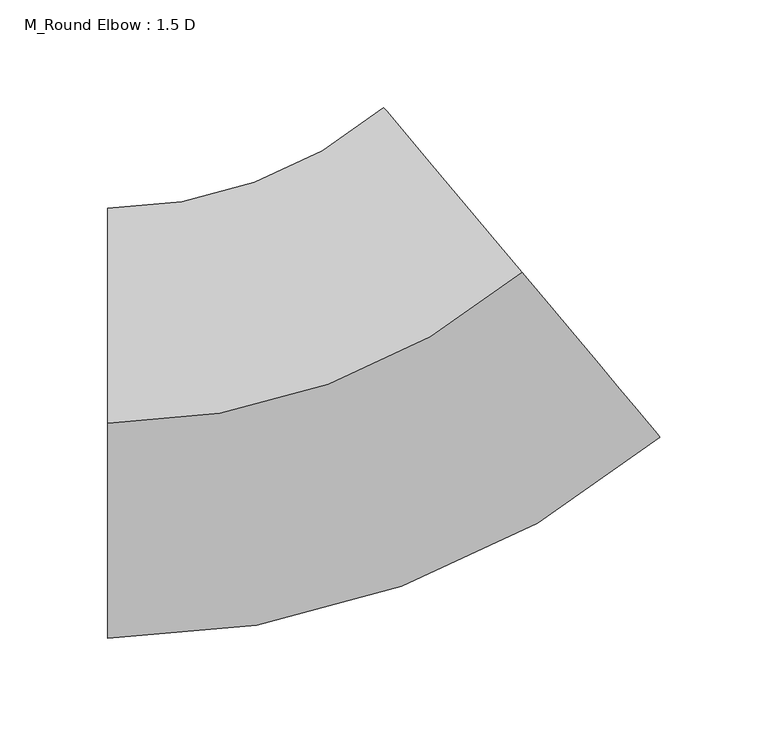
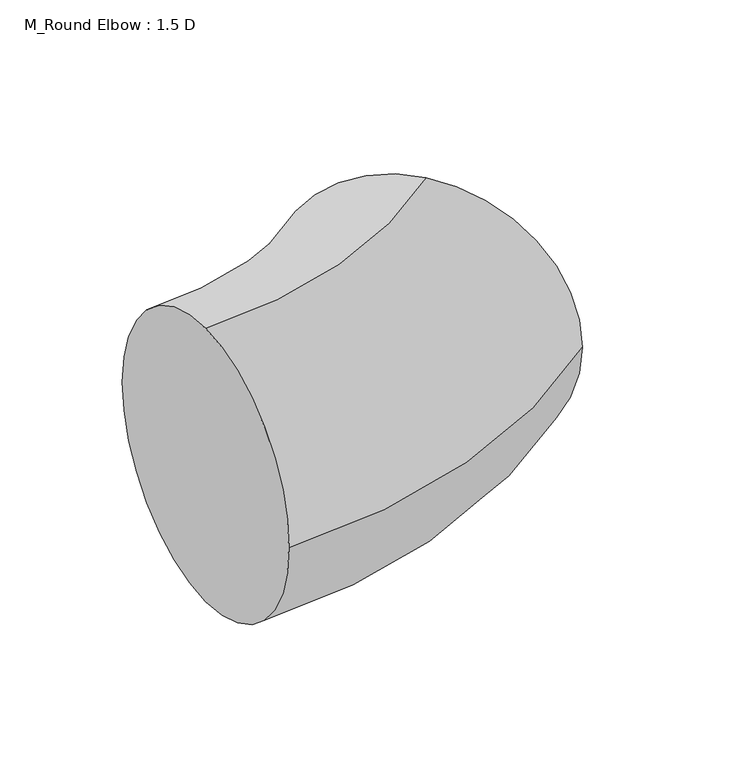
"""IFC4 building model written with IfcOpenShell, lengths in millimetres: duct fitting geometry, M_Round Elbow : 1.5 D."""

from ifc_helpers import new_model, si_unit, point, frame, origin, place, context, project, spatial, circle_curve, ellipse_curve, trimmed, source, transform, mapped, element, save
from ifc_brep_helpers import plane_surface, revolved_surface, advanced_brep


def m_round_elbow_1_5_d_e8828fc1(model_context):
    return source(origin(), model_context, "Body", "AdvancedBrep", [
        advanced_brep(
        [(-109.1910703, 0.0, 100.0), (-109.1910703, 100.0, 0.0), (-109.1910703, 0.0, -100.0), (-109.1910703, -100.0, 0.0), (83.6452126, 70.1866671, 100.0), (147.9239736, -6.4177772, 0.0), (83.6452126, 70.1866671, -100.0), (19.3664517, 146.7911114, 0.0)],
        [
            (0, 1, circle_curve(frame((-109.1910703, 0.0, 0.0), z_axis=(-1.0, 0.0, 0.0), x_axis=(0.0, 1.0, 0.0)), 100.0)),
            (1, 2, circle_curve(frame((-109.1910703, 0.0, 0.0), z_axis=(-1.0, 0.0, 0.0), x_axis=(0.0, 1.0, 0.0)), 100.0)),
            (2, 3, circle_curve(frame((-109.1910703, 0.0, 0.0), z_axis=(-1.0, 0.0, 0.0), x_axis=(0.0, 1.0, 0.0)), 100.0)),
            (3, 0, circle_curve(frame((-109.1910703, 0.0, 0.0), z_axis=(-1.0, 0.0, 0.0), x_axis=(0.0, 1.0, 0.0)), 100.0)),
            (4, 5, circle_curve(frame((83.6452126, 70.1866671, 0.0), z_axis=(0.766044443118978, 0.6427876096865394, 0.0), x_axis=(-0.6427876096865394, 0.766044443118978, 0.0)), 100.0)),
            (5, 6, circle_curve(frame((83.6452126, 70.1866671, 0.0), z_axis=(0.766044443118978, 0.6427876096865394, 0.0), x_axis=(-0.6427876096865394, 0.766044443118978, 0.0)), 100.0)),
            (6, 7, circle_curve(frame((83.6452126, 70.1866671, 0.0), z_axis=(0.766044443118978, 0.6427876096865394, 0.0), x_axis=(-0.6427876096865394, 0.766044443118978, 0.0)), 100.0)),
            (7, 4, circle_curve(frame((83.6452126, 70.1866671, 0.0), z_axis=(0.766044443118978, 0.6427876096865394, 0.0), x_axis=(-0.6427876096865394, 0.766044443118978, 0.0)), 100.0)),
            (7, 1, circle_curve(frame((-109.1910703, 300.0, 0.0), z_axis=(0.0, 0.0, -1.0), x_axis=(0.0, -1.0, 0.0)), 200.0)),
            (0, 4, circle_curve(frame((-109.1910703, 300.0, 100.0), z_axis=(0.0, 0.0, 1.0), x_axis=(0.0, -1.0, 0.0)), 300.0)),
            (6, 2, circle_curve(frame((-109.1910703, 300.0, -100.0), z_axis=(0.0, 0.0, -1.0), x_axis=(0.0, -1.0, 0.0)), 300.0)),
            (5, 3, circle_curve(frame((-109.1910703, 300.0, 0.0), z_axis=(0.0, 0.0, -1.0), x_axis=(0.0, -1.0, 0.0)), 400.0)),
        ],
        [
            plane_surface(frame((-109.1910703, 0.0, 0.0), z_axis=(-1.0, 0.0, 0.0), x_axis=(0.0, 0.0, 1.0))),
            plane_surface(frame((83.6452126, 70.1866671, 0.0), z_axis=(0.7660444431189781, 0.6427876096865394, 0.0), x_axis=(0.0, 0.0, 1.0))),
            revolved_surface(trimmed(ellipse_curve(frame((-109.1910703, 0.0, 0.0), z_axis=(-1.0, 0.0, 0.0), x_axis=(0.0, 1.0, 0.0)), 100.0, 100.0), [point((-109.1910703, 0.0, 100.0))], [point((-109.1910703, 100.0, 0.0))], True, "CARTESIAN"), (-109.1910703, 300.0, 0.0), (0.0, 0.0, 1.0)),
            revolved_surface(trimmed(ellipse_curve(frame((-109.1910703, 0.0, 0.0), z_axis=(-1.0, 0.0, 0.0), x_axis=(0.0, 1.0, 0.0)), 100.0, 100.0), [point((-109.1910703, 100.0, 0.0))], [point((-109.1910703, 0.0, -100.0))], True, "CARTESIAN"), (-109.1910703, 300.0, 0.0), (0.0, 0.0, 1.0)),
            revolved_surface(trimmed(ellipse_curve(frame((-109.1910703, 0.0, 0.0), z_axis=(-1.0, 0.0, 0.0), x_axis=(0.0, 1.0, 0.0)), 100.0, 100.0), [point((-109.1910703, 0.0, -100.0))], [point((-109.1910703, -100.0, 0.0))], True, "CARTESIAN"), (-109.1910703, 300.0, 0.0), (0.0, 0.0, 1.0)),
            revolved_surface(trimmed(ellipse_curve(frame((-109.1910703, 0.0, 0.0), z_axis=(-1.0, 0.0, 0.0), x_axis=(0.0, 1.0, 0.0)), 100.0, 100.0), [point((-109.1910703, -100.0, 0.0))], [point((-109.1910703, 0.0, 100.0))], True, "CARTESIAN"), (-109.1910703, 300.0, 0.0), (0.0, 0.0, 1.0)),
        ],
        [
            (0, [[1, 2, 3, 4]]),
            (1, [[5, 6, 7, 8]]),
            (2, [[9, -1, 10, -8]]),
            (3, [[11, -2, -9, -7]]),
            (4, [[12, -3, -11, -6]]),
            (5, [[-10, -4, -12, -5]]),
        ],
    ),
        advanced_brep(
        [(-109.1910703, 0.0, 100.0), (-109.1910703, 100.0, 0.0), (-109.1910703, 0.0, -100.0), (-109.1910703, -100.0, 0.0), (83.6452126, 70.1866671, 100.0), (147.9239736, -6.4177772, 0.0), (83.6452126, 70.1866671, -100.0), (19.3664517, 146.7911114, 0.0)],
        [
            (0, 1, circle_curve(frame((-109.1910703, 0.0, 0.0), z_axis=(-1.0, 0.0, 0.0), x_axis=(0.0, 1.0, 0.0)), 100.0)),
            (1, 2, circle_curve(frame((-109.1910703, 0.0, 0.0), z_axis=(-1.0, 0.0, 0.0), x_axis=(0.0, 1.0, 0.0)), 100.0)),
            (2, 3, circle_curve(frame((-109.1910703, 0.0, 0.0), z_axis=(-1.0, 0.0, 0.0), x_axis=(0.0, 1.0, 0.0)), 100.0)),
            (3, 0, circle_curve(frame((-109.1910703, 0.0, 0.0), z_axis=(-1.0, 0.0, 0.0), x_axis=(0.0, 1.0, 0.0)), 100.0)),
            (4, 5, circle_curve(frame((83.6452126, 70.1866671, 0.0), z_axis=(0.766044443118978, 0.6427876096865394, 0.0), x_axis=(-0.6427876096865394, 0.766044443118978, 0.0)), 100.0)),
            (5, 6, circle_curve(frame((83.6452126, 70.1866671, 0.0), z_axis=(0.766044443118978, 0.6427876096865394, 0.0), x_axis=(-0.6427876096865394, 0.766044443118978, 0.0)), 100.0)),
            (6, 7, circle_curve(frame((83.6452126, 70.1866671, 0.0), z_axis=(0.766044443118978, 0.6427876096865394, 0.0), x_axis=(-0.6427876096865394, 0.766044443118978, 0.0)), 100.0)),
            (7, 4, circle_curve(frame((83.6452126, 70.1866671, 0.0), z_axis=(0.766044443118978, 0.6427876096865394, 0.0), x_axis=(-0.6427876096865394, 0.766044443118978, 0.0)), 100.0)),
            (7, 1, circle_curve(frame((-109.1910703, 300.0, 0.0), z_axis=(0.0, 0.0, -1.0), x_axis=(0.0, -1.0, 0.0)), 200.0)),
            (0, 4, circle_curve(frame((-109.1910703, 300.0, 100.0), z_axis=(0.0, 0.0, 1.0), x_axis=(0.0, -1.0, 0.0)), 300.0)),
            (6, 2, circle_curve(frame((-109.1910703, 300.0, -100.0), z_axis=(0.0, 0.0, -1.0), x_axis=(0.0, -1.0, 0.0)), 300.0)),
            (5, 3, circle_curve(frame((-109.1910703, 300.0, 0.0), z_axis=(0.0, 0.0, -1.0), x_axis=(0.0, -1.0, 0.0)), 400.0)),
        ],
        [
            plane_surface(frame((-109.1910703, 0.0, 0.0), z_axis=(-1.0, 0.0, 0.0), x_axis=(0.0, 0.0, 1.0))),
            plane_surface(frame((83.6452126, 70.1866671, 0.0), z_axis=(0.7660444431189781, 0.6427876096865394, 0.0), x_axis=(0.0, 0.0, 1.0))),
            revolved_surface(trimmed(ellipse_curve(frame((-109.1910703, 0.0, 0.0), z_axis=(-1.0, 0.0, 0.0), x_axis=(0.0, 1.0, 0.0)), 100.0, 100.0), [point((-109.1910703, 0.0, 100.0))], [point((-109.1910703, 100.0, 0.0))], True, "CARTESIAN"), (-109.1910703, 300.0, 0.0), (0.0, 0.0, 1.0)),
            revolved_surface(trimmed(ellipse_curve(frame((-109.1910703, 0.0, 0.0), z_axis=(-1.0, 0.0, 0.0), x_axis=(0.0, 1.0, 0.0)), 100.0, 100.0), [point((-109.1910703, 100.0, 0.0))], [point((-109.1910703, 0.0, -100.0))], True, "CARTESIAN"), (-109.1910703, 300.0, 0.0), (0.0, 0.0, 1.0)),
            revolved_surface(trimmed(ellipse_curve(frame((-109.1910703, 0.0, 0.0), z_axis=(-1.0, 0.0, 0.0), x_axis=(0.0, 1.0, 0.0)), 100.0, 100.0), [point((-109.1910703, 0.0, -100.0))], [point((-109.1910703, -100.0, 0.0))], True, "CARTESIAN"), (-109.1910703, 300.0, 0.0), (0.0, 0.0, 1.0)),
            revolved_surface(trimmed(ellipse_curve(frame((-109.1910703, 0.0, 0.0), z_axis=(-1.0, 0.0, 0.0), x_axis=(0.0, 1.0, 0.0)), 100.0, 100.0), [point((-109.1910703, -100.0, 0.0))], [point((-109.1910703, 0.0, 100.0))], True, "CARTESIAN"), (-109.1910703, 300.0, 0.0), (0.0, 0.0, 1.0)),
        ],
        [
            (0, [[1, 2, 3, 4]]),
            (1, [[5, 6, 7, 8]]),
            (2, [[9, -1, 10, -8]]),
            (3, [[11, -2, -9, -7]]),
            (4, [[12, -3, -11, -6]]),
            (5, [[-10, -4, -12, -5]]),
        ],
    ),
        advanced_brep(
        [(-109.1910703, 0.0, 100.0), (-109.1910703, 100.0, 0.0), (-109.1910703, 0.0, -100.0), (-109.1910703, -100.0, 0.0), (83.6452126, 70.1866671, 100.0), (147.9239736, -6.4177772, 0.0), (83.6452126, 70.1866671, -100.0), (19.3664517, 146.7911114, 0.0)],
        [
            (0, 1, circle_curve(frame((-109.1910703, 0.0, 0.0), z_axis=(-1.0, 0.0, 0.0), x_axis=(0.0, 1.0, 0.0)), 100.0)),
            (1, 2, circle_curve(frame((-109.1910703, 0.0, 0.0), z_axis=(-1.0, 0.0, 0.0), x_axis=(0.0, 1.0, 0.0)), 100.0)),
            (2, 3, circle_curve(frame((-109.1910703, 0.0, 0.0), z_axis=(-1.0, 0.0, 0.0), x_axis=(0.0, 1.0, 0.0)), 100.0)),
            (3, 0, circle_curve(frame((-109.1910703, 0.0, 0.0), z_axis=(-1.0, 0.0, 0.0), x_axis=(0.0, 1.0, 0.0)), 100.0)),
            (4, 5, circle_curve(frame((83.6452126, 70.1866671, 0.0), z_axis=(0.766044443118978, 0.6427876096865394, 0.0), x_axis=(-0.6427876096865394, 0.766044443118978, 0.0)), 100.0)),
            (5, 6, circle_curve(frame((83.6452126, 70.1866671, 0.0), z_axis=(0.766044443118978, 0.6427876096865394, 0.0), x_axis=(-0.6427876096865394, 0.766044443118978, 0.0)), 100.0)),
            (6, 7, circle_curve(frame((83.6452126, 70.1866671, 0.0), z_axis=(0.766044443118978, 0.6427876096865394, 0.0), x_axis=(-0.6427876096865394, 0.766044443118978, 0.0)), 100.0)),
            (7, 4, circle_curve(frame((83.6452126, 70.1866671, 0.0), z_axis=(0.766044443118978, 0.6427876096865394, 0.0), x_axis=(-0.6427876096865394, 0.766044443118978, 0.0)), 100.0)),
            (7, 1, circle_curve(frame((-109.1910703, 300.0, 0.0), z_axis=(0.0, 0.0, -1.0), x_axis=(0.0, -1.0, 0.0)), 200.0)),
            (0, 4, circle_curve(frame((-109.1910703, 300.0, 100.0), z_axis=(0.0, 0.0, 1.0), x_axis=(0.0, -1.0, 0.0)), 300.0)),
            (6, 2, circle_curve(frame((-109.1910703, 300.0, -100.0), z_axis=(0.0, 0.0, -1.0), x_axis=(0.0, -1.0, 0.0)), 300.0)),
            (5, 3, circle_curve(frame((-109.1910703, 300.0, 0.0), z_axis=(0.0, 0.0, -1.0), x_axis=(0.0, -1.0, 0.0)), 400.0)),
        ],
        [
            plane_surface(frame((-109.1910703, 0.0, 0.0), z_axis=(-1.0, 0.0, 0.0), x_axis=(0.0, 0.0, 1.0))),
            plane_surface(frame((83.6452126, 70.1866671, 0.0), z_axis=(0.7660444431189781, 0.6427876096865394, 0.0), x_axis=(0.0, 0.0, 1.0))),
            revolved_surface(trimmed(ellipse_curve(frame((-109.1910703, 0.0, 0.0), z_axis=(-1.0, 0.0, 0.0), x_axis=(0.0, 1.0, 0.0)), 100.0, 100.0), [point((-109.1910703, 0.0, 100.0))], [point((-109.1910703, 100.0, 0.0))], True, "CARTESIAN"), (-109.1910703, 300.0, 0.0), (0.0, 0.0, 1.0)),
            revolved_surface(trimmed(ellipse_curve(frame((-109.1910703, 0.0, 0.0), z_axis=(-1.0, 0.0, 0.0), x_axis=(0.0, 1.0, 0.0)), 100.0, 100.0), [point((-109.1910703, 100.0, 0.0))], [point((-109.1910703, 0.0, -100.0))], True, "CARTESIAN"), (-109.1910703, 300.0, 0.0), (0.0, 0.0, 1.0)),
            revolved_surface(trimmed(ellipse_curve(frame((-109.1910703, 0.0, 0.0), z_axis=(-1.0, 0.0, 0.0), x_axis=(0.0, 1.0, 0.0)), 100.0, 100.0), [point((-109.1910703, 0.0, -100.0))], [point((-109.1910703, -100.0, 0.0))], True, "CARTESIAN"), (-109.1910703, 300.0, 0.0), (0.0, 0.0, 1.0)),
            revolved_surface(trimmed(ellipse_curve(frame((-109.1910703, 0.0, 0.0), z_axis=(-1.0, 0.0, 0.0), x_axis=(0.0, 1.0, 0.0)), 100.0, 100.0), [point((-109.1910703, -100.0, 0.0))], [point((-109.1910703, 0.0, 100.0))], True, "CARTESIAN"), (-109.1910703, 300.0, 0.0), (0.0, 0.0, 1.0)),
        ],
        [
            (0, [[1, 2, 3, 4]]),
            (1, [[5, 6, 7, 8]]),
            (2, [[9, -1, 10, -8]]),
            (3, [[11, -2, -9, -7]]),
            (4, [[12, -3, -11, -6]]),
            (5, [[-10, -4, -12, -5]]),
        ],
    ),
    ])


if __name__ == "__main__":
    model = new_model("IFC4")
    model_context = context("Model", 3, world=origin())
    ifc_project = project(units=[si_unit("LENGTHUNIT", "METRE", prefix="MILLI")], contexts=[model_context])
    site = spatial("IfcSite", under=ifc_project)
    building = spatial("IfcBuilding", under=site)
    placement = place(None, origin())
    m_round_elbow_1_5_d_shape = m_round_elbow_1_5_d_e8828fc1(model_context)
    element("IfcDuctFitting", 1, ObjectType="M_Round Elbow : 1.5 D", at=placement, inside=building, context=model_context, shape_type="MappedRepresentation", body=[
        mapped(m_round_elbow_1_5_d_shape, transform((0.0, 0.0, 0.0), x_axis=(1.0, 0.0, 0.0), y_axis=(0.0, 1.0, 0.0), z_axis=(0.0, 0.0, 1.0))),
    ])
    save(model, "model.ifc")
